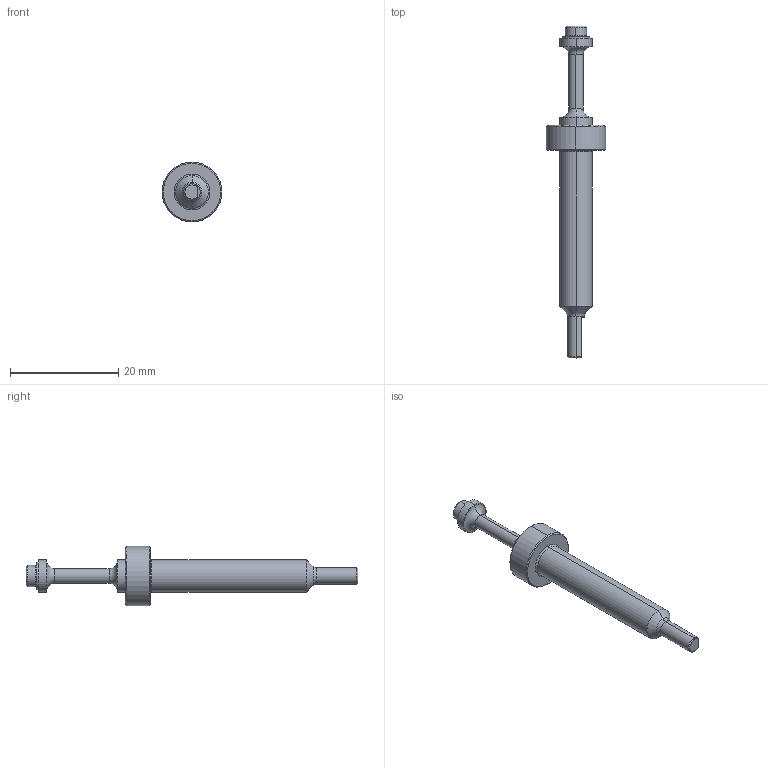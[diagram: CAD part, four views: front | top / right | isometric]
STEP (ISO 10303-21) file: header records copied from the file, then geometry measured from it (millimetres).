
FILE_DESCRIPTION((''),'2;1');
FILE_NAME('DJSXS20-6CNM_SOFT','2018-10-23T10:45:51',('GREEXTADU'),(''),'CREO PARAMETRIC BY PTC INC, 2018260','CREO PARAMETRIC BY PTC INC, 2018260','');
FILE_SCHEMA(('AUTOMOTIVE_DESIGN { 1 0 10303 214 1 1 1 1 }'));
Length unit declared in the file: millimetre
Products named in the file (1): DJSXS20-6CNM_SOFT
Bounding box: 11 x 61.2 x 11 mm (x, y, z)
Volume: 1517.1 mm3; surface area: 1413.5 mm2
Topology: 1 solids, 2 shells, 61 faces, 127 edges, 78 vertices
Faces by surface type: cylinder 22, plane 20, cone 11, torus 8
Entity records: 1993 total; most frequent: DIRECTION 318, CARTESIAN_POINT 278, ORIENTED_EDGE 254, AXIS2_PLACEMENT_3D 132, EDGE_CURVE 127, VERTEX_POINT 78, EDGE_LOOP 71, CIRCLE 71
